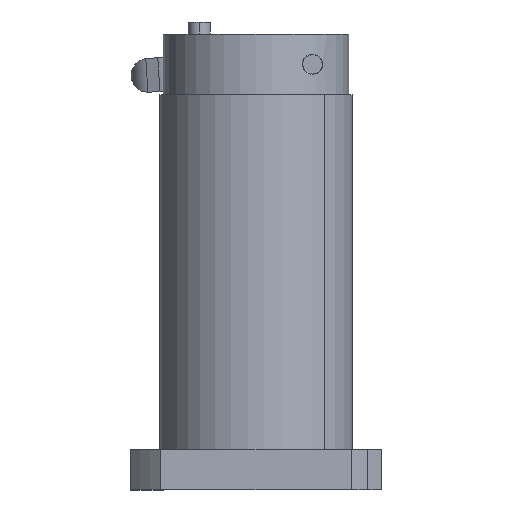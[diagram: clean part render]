
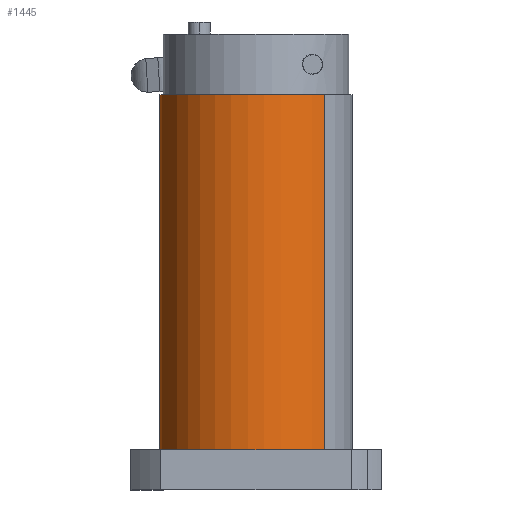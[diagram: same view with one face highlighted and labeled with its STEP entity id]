
A CAD part, left-side view. The second image highlights one B-rep face of the part: STEP entity #1445.
In plain terms, the highlighted cylindrical face has radius 24 mm (diameter 48 mm), a partial arc.
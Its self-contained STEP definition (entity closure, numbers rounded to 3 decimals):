
#114 = CARTESIAN_POINT ( 'NONE',  ( -24.532, -17.022, 159.309 ) ) ;
#138 = ORIENTED_EDGE ( 'NONE', *, *, #5057, .T. ) ;
#400 = DIRECTION ( 'NONE',  ( -0.707, -0.707, 0. ) ) ;
#460 = DIRECTION ( 'NONE',  ( 0., 0., -1. ) ) ;
#523 = VERTEX_POINT ( 'NONE', #114 ) ;
#819 = ORIENTED_EDGE ( 'NONE', *, *, #7262, .F. ) ;
#1445 = ADVANCED_FACE ( 'NONE', ( #3916 ), #3310, .T. ) ;
#1543 = VECTOR ( 'NONE', #3793, 1000. ) ;
#1624 = CARTESIAN_POINT ( 'NONE',  ( 9.409, 16.919, 159.309 ) ) ;
#1944 = EDGE_CURVE ( 'NONE', #2209, #7962, #5017, .T. ) ;
#1953 = DIRECTION ( 'NONE',  ( 0., 0., -1. ) ) ;
#1954 = VERTEX_POINT ( 'NONE', #6893 ) ;
#1980 = CIRCLE ( 'NONE', #6780, 24. ) ;
#1991 = CARTESIAN_POINT ( 'NONE',  ( -7.562, -0.052, 71.309 ) ) ;
#2103 = DIRECTION ( 'NONE',  ( -0.707, -0.707, 0. ) ) ;
#2209 = VERTEX_POINT ( 'NONE', #1624 ) ;
#2410 = AXIS2_PLACEMENT_3D ( 'NONE', #4523, #7588, #2103 ) ;
#3029 = CARTESIAN_POINT ( 'NONE',  ( -24.532, -17.022, 115.309 ) ) ;
#3114 = ORIENTED_EDGE ( 'NONE', *, *, #1944, .T. ) ;
#3310 = CYLINDRICAL_SURFACE ( 'NONE', #2410, 24. ) ;
#3379 = CARTESIAN_POINT ( 'NONE',  ( -7.562, -0.052, 159.309 ) ) ;
#3487 = ORIENTED_EDGE ( 'NONE', *, *, #7411, .F. ) ;
#3664 = VECTOR ( 'NONE', #460, 1000. ) ;
#3793 = DIRECTION ( 'NONE',  ( 0., 0., -1. ) ) ;
#3916 = FACE_OUTER_BOUND ( 'NONE', #4531, .T. ) ;
#4063 = CIRCLE ( 'NONE', #4571, 24. ) ;
#4165 = CARTESIAN_POINT ( 'NONE',  ( 9.409, 16.919, 115.309 ) ) ;
#4523 = CARTESIAN_POINT ( 'NONE',  ( -7.562, -0.052, 115.309 ) ) ;
#4531 = EDGE_LOOP ( 'NONE', ( #138, #3114, #819, #3487 ) ) ;
#4571 = AXIS2_PLACEMENT_3D ( 'NONE', #1991, #1953, #6428 ) ;
#5017 = LINE ( 'NONE', #4165, #1543 ) ;
#5057 = EDGE_CURVE ( 'NONE', #523, #2209, #1980, .T. ) ;
#5335 = DIRECTION ( 'NONE',  ( 0., 0., -1. ) ) ;
#6069 = CARTESIAN_POINT ( 'NONE',  ( 9.409, 16.919, 71.309 ) ) ;
#6428 = DIRECTION ( 'NONE',  ( -0.707, -0.707, 0. ) ) ;
#6780 = AXIS2_PLACEMENT_3D ( 'NONE', #3379, #5335, #400 ) ;
#6893 = CARTESIAN_POINT ( 'NONE',  ( -24.532, -17.022, 71.309 ) ) ;
#7262 = EDGE_CURVE ( 'NONE', #1954, #7962, #4063, .T. ) ;
#7311 = LINE ( 'NONE', #3029, #3664 ) ;
#7411 = EDGE_CURVE ( 'NONE', #523, #1954, #7311, .T. ) ;
#7588 = DIRECTION ( 'NONE',  ( 0., 0., -1. ) ) ;
#7962 = VERTEX_POINT ( 'NONE', #6069 ) ;
